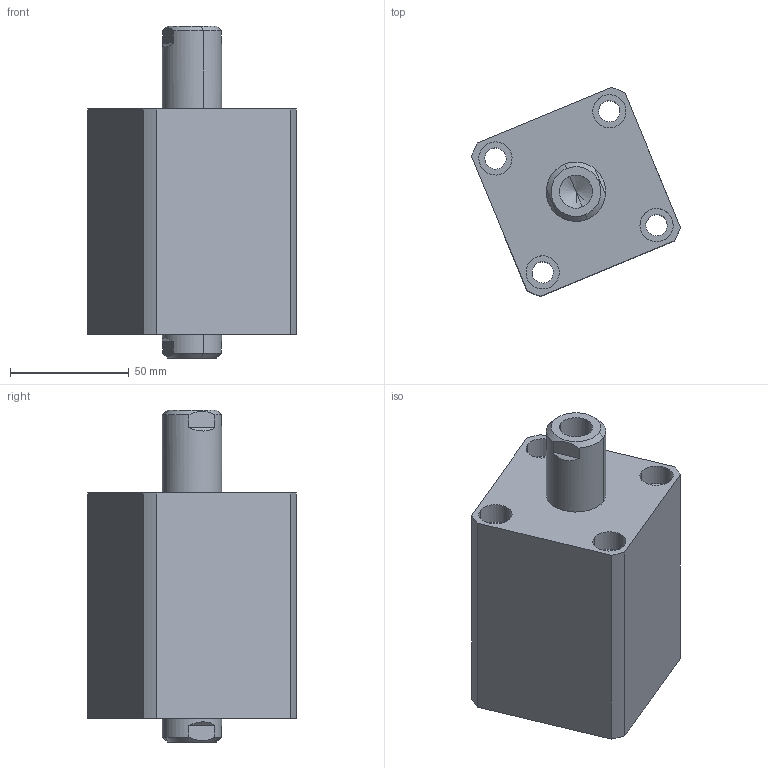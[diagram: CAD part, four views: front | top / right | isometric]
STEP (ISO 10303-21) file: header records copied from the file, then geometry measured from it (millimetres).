
FILE_DESCRIPTION (( 'STEP AP214' ), '1' );
FILE_NAME ('chtb-sw40x25n_asm.STEP', '2018-06-08T11:18:35', ( 'Windows' ), ( 'Microsoft' ), 'SwSTEP 2.0', 'SolidWorks 2015', '' );
FILE_SCHEMA (( 'AUTOMOTIVE_DESIGN' ));
Length unit declared in the file: millimetre
Products named in the file (4): CHTB-SW40X25NHSG; CHTB-SW40X25NBT; CHTB-SD40QG; chtb-sw40x25n_asm
Assembly tree (3 placements, depth 2):
  chtb-sw40x25n_asm
    CHTB-SD40QG
    CHTB-SW40X25NBT
    CHTB-SW40X25NHSG
Bounding box: 88.11 x 88.11 x 140 mm (x, y, z)
Volume: 421517.8 mm3; surface area: 84684.9 mm2
Topology: 3 solids, 3 shells, 167 faces, 429 edges, 282 vertices
Faces by surface type: cylinder 84, plane 40, cone 17, bspline 14, torus 12
Entity records: 10325 total; most frequent: CARTESIAN_POINT 6131, ORIENTED_EDGE 838, DIRECTION 822, EDGE_CURVE 419, AXIS2_PLACEMENT_3D 348, VERTEX_POINT 282, EDGE_LOOP 207, CIRCLE 189
